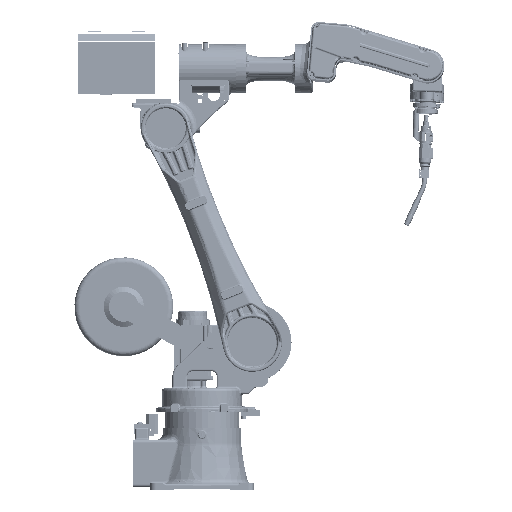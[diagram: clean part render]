
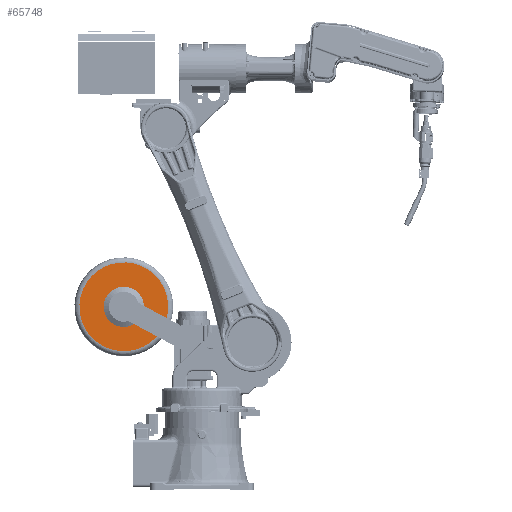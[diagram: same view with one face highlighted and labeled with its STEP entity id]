
A CAD part, front view. The second image highlights one B-rep face of the part: STEP entity #65748.
In plain terms, the highlighted planar face has unit normal (0, -1, 0) as drawn and (0, 0, 1) by its records, which use the part's own axes.
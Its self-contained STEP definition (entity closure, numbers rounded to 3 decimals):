
#65274=CARTESIAN_POINT('',(-263.907,623.822,
5.));
#65275=DIRECTION('',(0.,0.,-1.));
#65276=DIRECTION('',(-0.958,-0.287,0.));
#65277=AXIS2_PLACEMENT_3D('',#65274,#65275,#65276);
#65282=CARTESIAN_POINT('',(-263.907,623.822,
5.));
#65283=DIRECTION('',(0.,0.,-1.));
#65284=DIRECTION('',(0.958,0.287,0.));
#65285=AXIS2_PLACEMENT_3D('',#65282,#65283,#65284);
#65414=CARTESIAN_POINT('',(-407.576,580.705,
5.));
#65415=VERTEX_POINT('',#65414);
#65416=CARTESIAN_POINT('',(-120.237,666.94,
5.));
#65417=VERTEX_POINT('',#65416);
#65739=CARTESIAN_POINT('',(-263.907,623.822,
5.));
#65740=DIRECTION('',(0.,0.,1.));
#65741=DIRECTION('',(0.287,-0.958,0.));
#65742=AXIS2_PLACEMENT_3D('',#65739,#65740,#65741);
#65743=PLANE('',#65742);
#65744=ORIENTED_EDGE('',*,*,#65706,.T.);
#65745=ORIENTED_EDGE('',*,*,#65680,.T.);
#65746=EDGE_LOOP('',(#65744,#65745));
#65747=FACE_OUTER_BOUND('',#65746,.F.);
#65278=CIRCLE('',#65277,150.);
#65286=CIRCLE('',#65285,150.);
#65680=EDGE_CURVE('',#65417,#65415,#65286,.T.);
#65706=EDGE_CURVE('',#65415,#65417,#65278,.T.);
#65748=ADVANCED_FACE('',(#65747),#65743,.T.);
